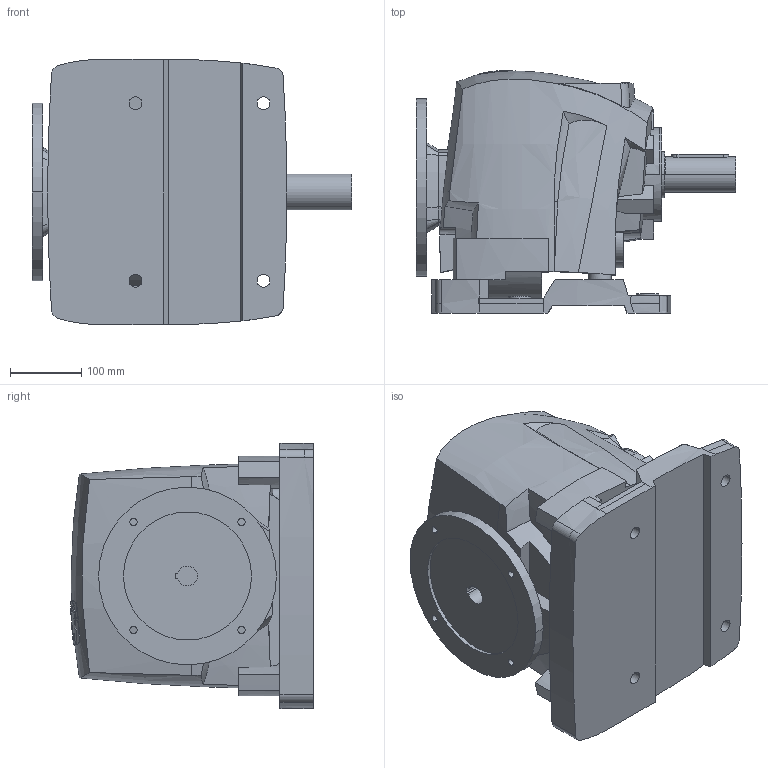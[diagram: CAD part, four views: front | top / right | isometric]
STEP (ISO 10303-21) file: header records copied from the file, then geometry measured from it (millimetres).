
FILE_DESCRIPTION((''),'2;1');
FILE_NAME('R50_BF_PAM100112','2013-12-19T',('Luca'),(''),'PRO/ENGINEER BY PARAMETRIC TECHNOLOGY CORPORATION, 2008230','PRO/ENGINEER BY PARAMETRIC TECHNOLOGY CORPORATION, 2008230','');
FILE_SCHEMA(('CONFIG_CONTROL_DESIGN'));
Length unit declared in the file: millimetre
Products named in the file (1): R50_BF_PAM100112
Bounding box: 450 x 341.4 x 373.02 mm (x, y, z)
Volume: 25489970 mm3; surface area: 920054.8 mm2
Topology: 1 solids, 1 shells, 439 faces, 1227 edges, 818 vertices
Faces by surface type: plane 183, cylinder 141, bspline 86, extrusion 11, cone 11, torus 7
Entity records: 19003 total; most frequent: CARTESIAN_POINT 8274, ORIENTED_EDGE 2450, DIRECTION 1875, EDGE_CURVE 1225, VERTEX_POINT 818, AXIS2_PLACEMENT_3D 651, VECTOR 573, LINE 562
